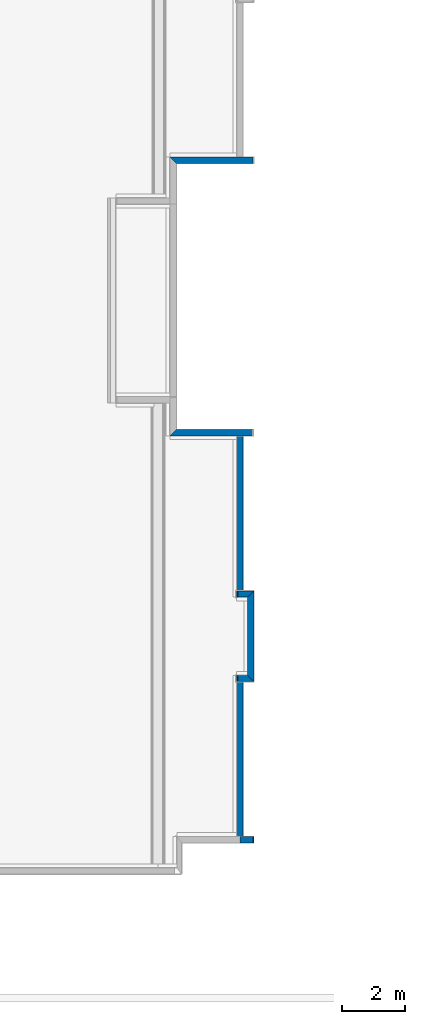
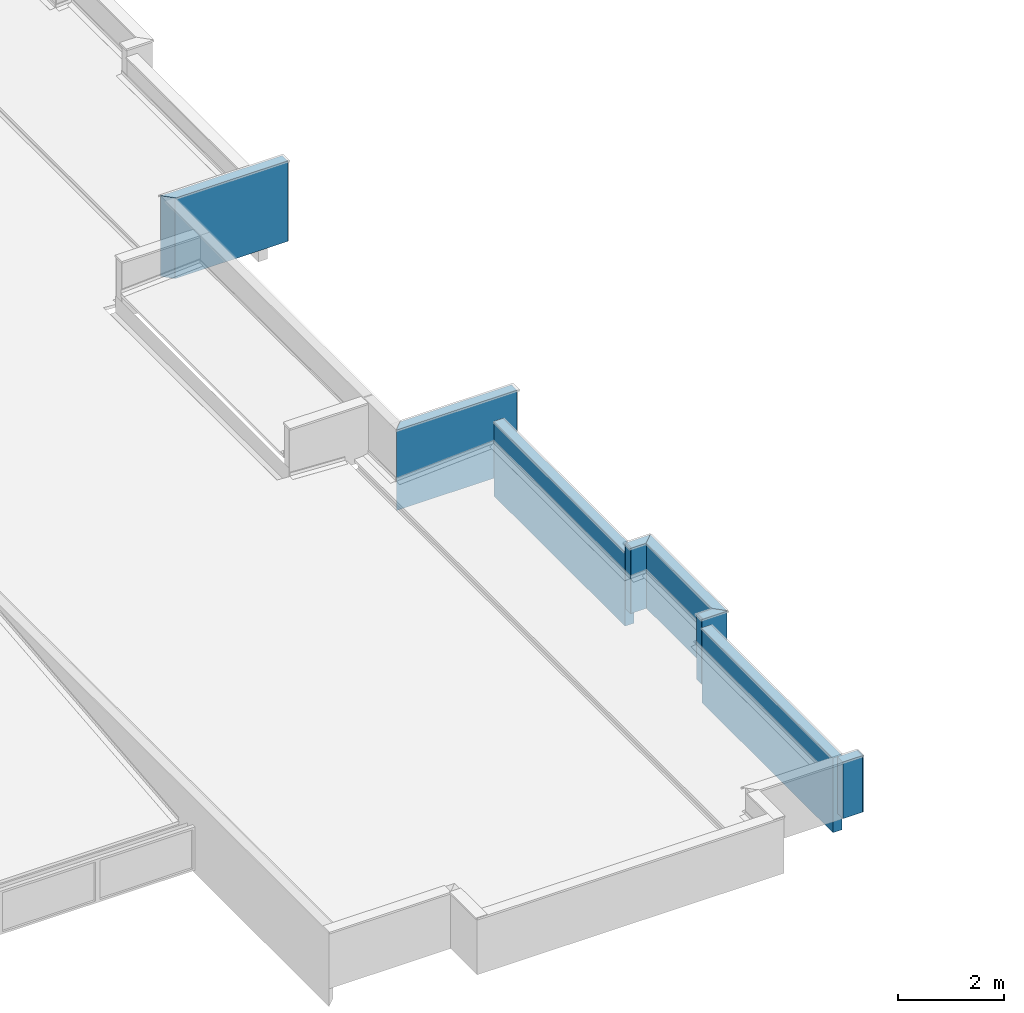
# One storey, part 5 of 25: 11 walls, 5 openings.
"""IFC4 building model written with IfcOpenShell, lengths in metres."""

from ifc_helpers import new_model, entity, si_unit, converted_unit, derived_unit, direction, frame, origin_with_axes, origin_2d_with_axis, place, context, subcontext, project, spatial, line, indexed_curve, rectangle, outline, extrude, polygons, source, transform, mapped, material, layer, layer_set, layer_usage, constituent, constituent_set, type_object, element, fill, save


model = new_model("IFC4")

# Units and contexts
model_context = context("Model", 3, precision=1e-05, world=origin_with_axes(), true_north=direction((0.0, 1.0)))
body_context = subcontext(model_context, "Body", "Model", "MODEL_VIEW")
ifc_project = project(units=[si_unit("LENGTHUNIT", "METRE"), si_unit("AREAUNIT", "SQUARE_METRE"), si_unit("VOLUMEUNIT", "CUBIC_METRE"), converted_unit("PLANEANGLEUNIT", "DEGREE", entity("IfcPlaneAngleMeasure", 0.0174532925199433), si_unit("PLANEANGLEUNIT", "RADIAN"), dimensions=[0, 0, 0, 0, 0, 0, 0]), converted_unit("TIMEUNIT", "Year", entity("IfcTimeMeasure", 31557600.0), si_unit("TIMEUNIT", "SECOND"), dimensions=[0, 0, 1, 0, 0, 0, 0]), si_unit("MASSUNIT", "GRAM", prefix="KILO"), si_unit("THERMODYNAMICTEMPERATUREUNIT", "DEGREE_CELSIUS"), si_unit("LUMINOUSINTENSITYUNIT", "LUMEN"), si_unit("ENERGYUNIT", "JOULE", prefix="MEGA"), derived_unit("THERMALCONDUCTANCEUNIT", [(si_unit("POWERUNIT", "WATT"), 1), (si_unit("LENGTHUNIT", "METRE"), -1), (si_unit("THERMODYNAMICTEMPERATUREUNIT", "KELVIN"), -1)]), derived_unit("SPECIFICHEATCAPACITYUNIT", [(si_unit("ENERGYUNIT", "JOULE"), 1), (si_unit("MASSUNIT", "GRAM", prefix="KILO"), -1), (si_unit("THERMODYNAMICTEMPERATUREUNIT", "KELVIN"), -1)]), derived_unit("MASSDENSITYUNIT", [(si_unit("MASSUNIT", "GRAM", prefix="KILO"), 1), (si_unit("VOLUMEUNIT", "CUBIC_METRE"), -1)])], contexts=[model_context])

# Site, building, storey
site_placement = place(None, origin_with_axes())
site = spatial("IfcSite", under=ifc_project, at=site_placement, Name="PADRÃO", CompositionType="ELEMENT")
building_placement = place(site_placement, origin_with_axes())
building = spatial("IfcBuilding", under=site, at=building_placement, Name="CRECHE PRÉ-ESCOLA TIPO 2", CompositionType="ELEMENT")
storey_placement = place(building_placement, frame((0.0, 0.0, 3.26), z_axis=(0.0, 0.0, 1.0), x_axis=(1.0, 0.0, 0.0)))
storey = spatial("IfcBuildingStorey", under=building, at=storey_placement, Name="COBERTURA", CompositionType="ELEMENT", Elevation=3.26)

# Walls
ifc_material_1 = material(Name="EI-REV-Pintura Acrílica Cor Branco Gelo")
ifc_layer_1 = layer(ifc_material_1, 0.015, ventilated="UNKNOWN", Name="EI-REV-Pintura Acrílica Cor Branco Gelo 1")
ifc_material_2 = material(Name="EI-REV-Massa Acrílica (externa)")
ifc_layer_2 = layer(ifc_material_2, 0.005, ventilated="UNKNOWN", Name="EI-REV-Massa Acrílica (externa) 1")
ifc_material_3 = material(Name="EI-REV-Massa única - Fachada")
ifc_layer_3 = layer(ifc_material_3, 0.005, ventilated="UNKNOWN", Name="EI-REV-Massa única - Fachada 1")
ifc_material_4 = material(Name="EI-REV-Chapisco (externo)")
ifc_layer_4 = layer(ifc_material_4, 0.005, ventilated="UNKNOWN", Name="EI-REV-Chapisco (externo) 1")
ifc_material_5 = material(Name="TIJOLO - CERAMICO 14x19x39 - espessura 20cm")
ifc_layer_5 = layer(ifc_material_5, 0.14, ventilated="UNKNOWN", Name="TIJOLO - CERAMICO 14x19x39 - espessura 20cm")
ifc_layer_6 = layer(ifc_material_4, 0.005, ventilated="UNKNOWN", Name="EI-REV-Chapisco (externo) 2")
ifc_layer_7 = layer(ifc_material_3, 0.005, ventilated="UNKNOWN", Name="EI-REV-Massa única - Fachada 2")
ifc_layer_8 = layer(ifc_material_2, 0.005, ventilated="UNKNOWN", Name="EI-REV-Massa Acrílica (externa) 2")
ifc_layer_9 = layer(ifc_material_1, 0.015, ventilated="UNKNOWN", Name="EI-REV-Pintura Acrílica Cor Branco Gelo 2")
ifc_layer_set_1 = layer_set([ifc_layer_1, ifc_layer_2, ifc_layer_3, ifc_layer_4, ifc_layer_5, ifc_layer_6, ifc_layer_7, ifc_layer_8, ifc_layer_9], Name="FNDE-PLAT_AL14-Pintura Branca")
ifc_layer_usage_1 = layer_usage(ifc_layer_set_1, "AXIS2", "NEGATIVE", 0.1)
wall_type_1 = type_object("IfcWallType", Name="FNDE-PLAT_AL14-Pintura Branca 200", PredefinedType="NOTDEFINED")
wall_1_placement = place(storey_placement, frame((-6.34004243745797, 18.0501547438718, -0.410000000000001), z_axis=(0.0, 0.0, 1.0), x_axis=(0.0, -1.0, 0.0)))
element("IfcWall", 1, at=wall_1_placement, inside=storey, type_object=wall_type_1, material=ifc_layer_usage_1, Name="AL14", PredefinedType="NOTDEFINED", context=body_context, shape_type="SweptSolid", body=[
    extrude(outline(indexed_curve([(0.0, -0.100000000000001), (4.94999872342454, -0.100000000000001), (4.94999872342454, 0.100000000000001), (0.0, 0.100000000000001)], segments=[line(1, 2, 3, 4, 1)])), origin_with_axes(), (0.0, 0.0, 1.0), 1.72),
])
ifc_layer_usage_2 = layer_usage(ifc_layer_set_1, "AXIS2", "NEGATIVE", 0.1)
wall_2_placement = place(storey_placement, frame((-6.34004280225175, 10.2001564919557, -0.410000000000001), z_axis=(0.0, 0.0, 1.0), x_axis=(0.0, -1.0, 0.0)))
element("IfcWall", 2, at=wall_2_placement, inside=storey, type_object=wall_type_1, material=ifc_layer_usage_2, Name="AL14", PredefinedType="NOTDEFINED", context=body_context, shape_type="SweptSolid", body=[
    extrude(outline(indexed_curve([(0.0, -0.100000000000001), (4.9500004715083, -0.100000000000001), (4.9500004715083, 0.100000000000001), (0.0, 0.100000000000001)], segments=[line(1, 2, 3, 4, 1)])), origin_with_axes(), (0.0, 0.0, 1.0), 1.72),
])

# Wall, opening
ifc_material_6 = material(Name="EI-REV-Pintura Acrílica Cor Cinza")
ifc_layer_10 = layer(ifc_material_6, 0.015, ventilated="UNKNOWN", Name="EI-REV-Pintura Acrílica Cor Cinza 1")
ifc_layer_11 = layer(ifc_material_2, 0.005, ventilated="UNKNOWN", Name="EI-REV-Massa Acrílica (externa) 1")
ifc_layer_12 = layer(ifc_material_3, 0.005, ventilated="UNKNOWN", Name="EI-REV-Massa única - Fachada 1")
ifc_layer_13 = layer(ifc_material_4, 0.005, ventilated="UNKNOWN", Name="EI-REV-Chapisco (externo) 1")
ifc_layer_14 = layer(ifc_material_5, 0.14, ventilated="UNKNOWN", Name="TIJOLO - CERAMICO 14x19x39 - espessura 20cm")
ifc_layer_15 = layer(ifc_material_4, 0.005, ventilated="UNKNOWN", Name="EI-REV-Chapisco (externo) 2")
ifc_layer_16 = layer(ifc_material_3, 0.005, ventilated="UNKNOWN", Name="EI-REV-Massa única - Fachada 2")
ifc_layer_17 = layer(ifc_material_2, 0.005, ventilated="UNKNOWN", Name="EI-REV-Massa Acrílica (externa) 2")
ifc_layer_18 = layer(ifc_material_6, 0.015, ventilated="UNKNOWN", Name="EI-REV-Pintura Acrílica Cor Cinza 2")
ifc_layer_set_2 = layer_set([ifc_layer_10, ifc_layer_11, ifc_layer_12, ifc_layer_13, ifc_layer_14, ifc_layer_15, ifc_layer_16, ifc_layer_17, ifc_layer_18], Name="FNDE-PLAT_AL14-Pintura cinza")
ifc_layer_usage_3 = layer_usage(ifc_layer_set_2, "AXIS2", "POSITIVE", -0.1)
wall_type_2 = type_object("IfcWallType", Name="FNDE-PLAT_AL14-Pintura cinza 200", PredefinedType="NOTDEFINED")
wall_3_placement = place(storey_placement, frame((-5.91504280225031, 18.1501547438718, 0.0), z_axis=(0.0, 0.0, 1.0), x_axis=(-1.0, 0.0, 0.0)))
wall_3 = element("IfcWall", 3, at=wall_3_placement, inside=storey, type_object=wall_type_2, material=ifc_layer_usage_3, Name="AL14", PredefinedType="NOTDEFINED", context=body_context, shape_type="SweptSolid", body=[
    extrude(outline(indexed_curve([(0.0, -0.100000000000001), (2.45500895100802, -0.100000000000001), (2.65500895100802, 0.0999999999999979), (0.0, 0.0999999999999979)], segments=[line(1, 2, 3, 4, 1)])), origin_with_axes(), (0.0, 0.0, 1.0), 1.86),
])
opening_1_placement = place(wall_3_placement, origin_with_axes())
element("IfcOpeningElement", 4, at=opening_1_placement, cuts=wall_3, Name="AL14", context=body_context, shape_type="SweptSolid", body=[
    extrude(rectangle(XDim=0.199999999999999, YDim=0.0150000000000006, at=origin_2d_with_axis()), frame((0.00750000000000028, 0.0, 0.0), z_axis=(0.0, 0.0, 1.0), x_axis=(0.0, 1.0, 0.0)), (0.0, 0.0, 1.0), 1.86),
    extrude(rectangle(XDim=0.184999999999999, YDim=0.00500000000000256, at=origin_2d_with_axis()), frame((0.0174999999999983, 0.00749999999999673, 0.0), z_axis=(0.0, 0.0, 1.0), x_axis=(0.0, 1.0, 0.0)), (0.0, 0.0, 1.0), 1.86),
    extrude(rectangle(XDim=0.18, YDim=0.00499999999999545, at=origin_2d_with_axis()), frame((0.0225000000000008, 0.00999999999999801, 0.0), z_axis=(0.0, 0.0, 1.0), x_axis=(0.0, 1.0, 0.0)), (0.0, 0.0, 1.0), 1.86),
])

# Walls, opening
ifc_layer_usage_4 = layer_usage(ifc_layer_set_2, "AXIS2", "POSITIVE", -0.1)
wall_4_placement = place(storey_placement, frame((-6.34004289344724, 5.15015602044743, 0.0), z_axis=(0.0, 0.0, 1.0), x_axis=(1.0, 0.0, 0.0)))
wall_4 = element("IfcWall", 5, at=wall_4_placement, inside=storey, type_object=wall_type_2, material=ifc_layer_usage_4, Name="AL14", PredefinedType="NOTDEFINED", context=body_context, shape_type="SweptSolid", body=[
    extrude(outline(indexed_curve([(0.0, -0.0999999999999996), (0.450000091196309, -0.0999999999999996), (0.450000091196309, 0.100000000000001), (0.0, 0.100000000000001)], segments=[line(1, 2, 3, 4, 1)])), origin_with_axes(), (0.0, 0.0, 1.0), 1.31),
])
opening_2_placement = place(wall_4_placement, frame((0.450000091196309, 0.0, 0.0), z_axis=(0.0, 0.0, 1.0), x_axis=(1.0, 0.0, 0.0)))
opening_2 = element("IfcOpeningElement", 6, at=opening_2_placement, cuts=wall_4, Name="AL14", context=body_context, shape_type="SweptSolid", body=[
    extrude(rectangle(XDim=0.2, YDim=0.0150000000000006, at=origin_2d_with_axis()), frame((-0.00750000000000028, 0.0, 0.0), z_axis=(0.0, 0.0, 1.0), x_axis=(0.0, -1.0, 0.0)), (0.0, 0.0, 1.0), 1.31),
    extrude(rectangle(XDim=0.185, YDim=0.00500000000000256, at=origin_2d_with_axis()), frame((-0.0174999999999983, 0.00750000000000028, 0.0), z_axis=(0.0, 0.0, 1.0), x_axis=(0.0, -1.0, 0.0)), (0.0, 0.0, 1.0), 1.31),
    extrude(rectangle(XDim=0.18, YDim=0.00499999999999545, at=origin_2d_with_axis()), frame((-0.0225000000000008, 0.0100000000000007, 0.0), z_axis=(0.0, 0.0, 1.0), x_axis=(0.0, -1.0, 0.0)), (0.0, 0.0, 1.0), 1.31),
])
ifc_constituent_1 = constituent(ifc_material_6, Name="EI-REV-Pintura Acrílica Cor Cinza")
ifc_constituent_2 = constituent(ifc_material_2, Name="EI-REV-Massa Acrílica (externa)")
ifc_constituent_3 = constituent(ifc_material_3, Name="EI-REV-Massa única - Fachada")
ifc_constituent_set_1 = constituent_set(constituents=[ifc_constituent_1, ifc_constituent_2, ifc_constituent_3])
wall_type_3 = type_object("IfcWallType", Name="Arremate com Dobra Revest 27", PredefinedType="NOTDEFINED")
shared_shape_1 = source(origin_with_axes(), body_context, "Body", "Tessellation", [
    polygons([(0.0, 0.0, 0.0), (0.0, -0.015, 0.0), (0.0, -0.015, 1.31), (0.0, 0.0, 1.31), (0.2, 0.0, 0.0), (0.2, -0.015, 0.0), (0.2, -0.015, 1.31), (0.2, 0.0, 1.31)], [[[1, 2, 3, 4]], [[5, 6, 2, 1]], [[6, 7, 3, 2]], [[7, 8, 4, 3]], [[8, 5, 1, 4]], [[5, 8, 7, 6]]], closed=True),
    polygons([(0.0, -0.015, 0.0), (0.0, -0.02, 0.0), (0.0, -0.02, 1.31), (0.0, -0.015, 1.31), (0.185, -0.015, 0.0), (0.185, -0.02, 0.0), (0.185, -0.02, 1.31), (0.185, -0.015, 1.31)], [[[1, 2, 3, 4]], [[5, 6, 2, 1]], [[6, 7, 3, 2]], [[7, 8, 4, 3]], [[8, 5, 1, 4]], [[5, 8, 7, 6]]], closed=True),
    polygons([(0.0, -0.02, 0.0), (0.0, -0.025, 0.0), (0.0, -0.025, 1.31), (0.0, -0.02, 1.31), (0.18, -0.02, 0.0), (0.18, -0.025, 0.0), (0.18, -0.025, 1.31), (0.18, -0.02, 1.31)], [[[1, 2, 3, 4]], [[5, 6, 2, 1]], [[6, 7, 3, 2]], [[7, 8, 4, 3]], [[8, 5, 1, 4]], [[5, 8, 7, 6]]], closed=True),
])
wall_5_placement = place(opening_2_placement, frame((0.0125000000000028, 0.0, 0.0), z_axis=(0.0, 0.0, 1.0), x_axis=(-1.0, 0.0, 0.0)))
wall_5 = element("IfcWall", 7, at=wall_5_placement, inside=storey, type_object=wall_type_3, material=ifc_constituent_set_1, Name="AL14", PredefinedType="NOTDEFINED", context=body_context, shape_type="MappedRepresentation", body=[
    mapped(shared_shape_1, transform((0.0125000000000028, -0.100000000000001, 0.0), x_axis=(0.0, 1.0, 0.0), y_axis=(-1.0, 0.0, 0.0), z_axis=(0.0, 0.0, 1.0))),
])
fill(opening_2, wall_5)

# Wall, opening
ifc_layer_usage_5 = layer_usage(ifc_layer_set_2, "AXIS2", "POSITIVE", -0.1)
wall_6_placement = place(storey_placement, frame((-5.89001783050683, 26.8501567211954, 0.0), z_axis=(0.0, 0.0, 1.0), x_axis=(-1.0, 0.0, 0.0)))
wall_6 = element("IfcWall", 8, at=wall_6_placement, inside=storey, type_object=wall_type_2, material=ifc_layer_usage_5, Name="AL14", PredefinedType="NOTDEFINED", context=body_context, shape_type="SweptSolid", body=[
    extrude(outline(indexed_curve([(0.0, -0.100000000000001), (2.6800339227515, -0.100000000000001), (2.48003392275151, 0.0999999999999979), (0.0, 0.0999999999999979)], segments=[line(1, 2, 3, 4, 1)])), origin_with_axes(), (0.0, 0.0, 1.0), 1.86),
])
opening_3_placement = place(wall_6_placement, origin_with_axes())
element("IfcOpeningElement", 9, at=opening_3_placement, cuts=wall_6, Name="AL14", context=body_context, shape_type="SweptSolid", body=[
    extrude(rectangle(XDim=0.199999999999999, YDim=0.0150000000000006, at=origin_2d_with_axis()), frame((0.00750000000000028, 0.0, 0.0), z_axis=(0.0, 0.0, 1.0), x_axis=(0.0, 1.0, 0.0)), (0.0, 0.0, 1.0), 1.86),
    extrude(rectangle(XDim=0.184999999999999, YDim=0.00500000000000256, at=origin_2d_with_axis()), frame((0.0175000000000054, -0.00750000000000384, 0.0), z_axis=(0.0, 0.0, 1.0), x_axis=(0.0, 1.0, 0.0)), (0.0, 0.0, 1.0), 1.86),
    extrude(rectangle(XDim=0.18, YDim=0.00499999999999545, at=origin_2d_with_axis()), frame((0.0225000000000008, -0.0100000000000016, 0.0), z_axis=(0.0, 0.0, 1.0), x_axis=(0.0, 1.0, 0.0)), (0.0, 0.0, 1.0), 1.86),
])

# Wall
ifc_material_7 = material(Name="EI-REV-Pintura Acrílica Cor Azul Externa")
ifc_layer_19 = layer(ifc_material_7, 0.015, ventilated="UNKNOWN", Name="EI-REV-Pintura Acrílica Cor Azul Externa")
ifc_layer_20 = layer(ifc_material_2, 0.005, ventilated="UNKNOWN", Name="EI-REV-Massa Acrílica (externa) 1")
ifc_layer_21 = layer(ifc_material_3, 0.005, ventilated="UNKNOWN", Name="EI-REV-Massa única - Fachada 1")
ifc_layer_22 = layer(ifc_material_4, 0.005, ventilated="UNKNOWN", Name="EI-REV-Chapisco (externo) 1")
ifc_layer_23 = layer(ifc_material_5, 0.14, ventilated="UNKNOWN", Name="TIJOLO - CERAMICO 14x19x39 - espessura 20cm")
ifc_layer_24 = layer(ifc_material_4, 0.005, ventilated="UNKNOWN", Name="EI-REV-Chapisco (externo) 2")
ifc_layer_25 = layer(ifc_material_3, 0.005, ventilated="UNKNOWN", Name="EI-REV-Massa única - Fachada 2")
ifc_layer_26 = layer(ifc_material_2, 0.005, ventilated="UNKNOWN", Name="EI-REV-Massa Acrílica (externa) 2")
ifc_layer_27 = layer(ifc_material_1, 0.015, ventilated="UNKNOWN", Name="EI-REV-Pintura Acrílica Cor Branco Gelo")
ifc_layer_set_3 = layer_set([ifc_layer_19, ifc_layer_20, ifc_layer_21, ifc_layer_22, ifc_layer_23, ifc_layer_24, ifc_layer_25, ifc_layer_26, ifc_layer_27], Name="FNDE-PLAT_AL14-Pintura Azul - Branca")
ifc_layer_usage_6 = layer_usage(ifc_layer_set_3, "AXIS2", "NEGATIVE", 0.1)
wall_type_4 = type_object("IfcWallType", Name="FNDE-PLAT_AL14-Pintura Azul - Branca 200", PredefinedType="NOTDEFINED")
wall_7_placement = place(storey_placement, frame((-5.98991134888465, 13.0001556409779, 0.0), z_axis=(0.0, 0.0, 1.0), x_axis=(0.0, -1.0, 0.0)))
element("IfcWall", 10, at=wall_7_placement, inside=storey, type_object=wall_type_4, material=ifc_layer_usage_6, Name="AL14", PredefinedType="NOTDEFINED", context=body_context, shape_type="SweptSolid", body=[
    extrude(outline(indexed_curve([(0.0999998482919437, -0.100000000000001), (2.59997080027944, -0.100000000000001), (2.79997080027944, 0.100000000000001), (-0.0999998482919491, 0.100000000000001)], segments=[line(1, 2, 3, 4, 1)])), origin_with_axes(), (0.0, 0.0, 1.0), 1.51),
])

# Walls, opening
ifc_layer_usage_7 = layer_usage(ifc_layer_set_3, "AXIS2", "NEGATIVE", 0.1)
wall_8_placement = place(storey_placement, frame((-5.98991134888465, 10.3001848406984, 0.0), z_axis=(0.0, 0.0, 1.0), x_axis=(-1.0, 0.0, 0.0)))
wall_8 = element("IfcWall", 11, at=wall_8_placement, inside=storey, type_object=wall_type_4, material=ifc_layer_usage_7, Name="AL14", PredefinedType="NOTDEFINED", context=body_context, shape_type="SweptSolid", body=[
    extrude(outline(indexed_curve([(0.100000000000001, -0.0999999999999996), (0.450000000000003, -0.0999999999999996), (0.450000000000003, 0.0999999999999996), (-0.100000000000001, 0.0999999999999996)], segments=[line(1, 2, 3, 4, 1)])), origin_with_axes(), (0.0, 0.0, 1.0), 1.51),
])
opening_4_placement = place(wall_8_placement, frame((0.450000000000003, 0.0, 0.0), z_axis=(0.0, 0.0, 1.0), x_axis=(1.0, 0.0, 0.0)))
opening_4 = element("IfcOpeningElement", 12, at=opening_4_placement, cuts=wall_8, Name="AL14", ObjectType="Recess", context=body_context, shape_type="SweptSolid", body=[
    extrude(rectangle(XDim=0.184999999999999, YDim=0.0150000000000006, at=origin_2d_with_axis()), frame((-0.00750000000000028, -0.00750000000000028, 0.0), z_axis=(0.0, 0.0, 1.0), x_axis=(0.0, -1.0, 0.0)), (0.0, 0.0, 1.0), 1.51),
    extrude(rectangle(XDim=0.17, YDim=0.00500000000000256, at=origin_2d_with_axis()), frame((-0.0174999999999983, 0.0, 0.0), z_axis=(0.0, 0.0, 1.0), x_axis=(0.0, -1.0, 0.0)), (0.0, 0.0, 1.0), 1.51),
    extrude(rectangle(XDim=0.164999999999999, YDim=0.00499999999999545, at=origin_2d_with_axis()), frame((-0.0225000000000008, 0.0024999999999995, 0.0), z_axis=(0.0, 0.0, 1.0), x_axis=(0.0, -1.0, 0.0)), (0.0, 0.0, 1.0), 1.51),
])
ifc_constituent_4 = constituent(ifc_material_1, Name="EI-REV-Pintura Acrílica Cor Branco Gelo")
ifc_constituent_5 = constituent(ifc_material_2, Name="EI-REV-Massa Acrílica (externa)")
ifc_constituent_6 = constituent(ifc_material_3, Name="EI-REV-Massa única - Fachada")
ifc_constituent_set_2 = constituent_set(constituents=[ifc_constituent_4, ifc_constituent_5, ifc_constituent_6])
shared_shape_2 = source(origin_with_axes(), body_context, "Body", "Tessellation", [
    polygons([(0.015, 0.0, 0.0), (0.015, -0.015, 0.0), (0.015, -0.015, 1.51), (0.015, 0.0, 1.51), (0.2, 0.0, 0.0), (0.2, -0.015, 0.0), (0.2, -0.015, 1.51), (0.2, 0.0, 1.51)], [[[1, 2, 3, 4]], [[5, 6, 2, 1]], [[6, 7, 3, 2]], [[7, 8, 4, 3]], [[8, 5, 1, 4]], [[5, 8, 7, 6]]], closed=True),
    polygons([(0.015, -0.015, 0.0), (0.015, -0.02, 0.0), (0.015, -0.02, 1.51), (0.015, -0.015, 1.51), (0.185, -0.015, 0.0), (0.185, -0.02, 0.0), (0.185, -0.02, 1.51), (0.185, -0.015, 1.51)], [[[1, 2, 3, 4]], [[5, 6, 2, 1]], [[6, 7, 3, 2]], [[7, 8, 4, 3]], [[8, 5, 1, 4]], [[5, 8, 7, 6]]], closed=True),
    polygons([(0.015, -0.02, 0.0), (0.015, -0.025, 0.0), (0.015, -0.025, 1.51), (0.015, -0.02, 1.51), (0.18, -0.02, 0.0), (0.18, -0.025, 0.0), (0.18, -0.025, 1.51), (0.18, -0.02, 1.51)], [[[1, 2, 3, 4]], [[5, 6, 2, 1]], [[6, 7, 3, 2]], [[7, 8, 4, 3]], [[8, 5, 1, 4]], [[5, 8, 7, 6]]], closed=True),
])
wall_9_placement = place(opening_4_placement, frame((-0.0125000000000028, 0.0, 0.0), z_axis=(0.0, 0.0, 1.0), x_axis=(1.0, 0.0, 0.0)))
wall_9 = element("IfcWall", 13, at=wall_9_placement, inside=storey, type_object=wall_type_3, material=ifc_constituent_set_2, Name="AL14", PredefinedType="NOTDEFINED", context=body_context, shape_type="MappedRepresentation", body=[
    mapped(shared_shape_2, transform((0.0125000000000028, 0.0999999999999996, 0.0), x_axis=(0.0, -1.0, 0.0), y_axis=(1.0, 0.0, 0.0), z_axis=(0.0, 0.0, 1.0))),
])
fill(opening_4, wall_9)

ifc_layer_usage_8 = layer_usage(ifc_layer_set_3, "AXIS2", "NEGATIVE", 0.1)
wall_10_placement = place(storey_placement, frame((-6.43991134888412, 13.0001563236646, 0.0), z_axis=(0.0, 0.0, 1.0), x_axis=(0.999999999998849, -1.51708168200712e-06, 0.0)))
wall_10 = element("IfcWall", 14, at=wall_10_placement, inside=storey, type_object=wall_type_4, material=ifc_layer_usage_8, Name="AL14", PredefinedType="NOTDEFINED", context=body_context, shape_type="SweptSolid", body=[
    extrude(outline(indexed_curve([(0.0, -0.100000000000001), (0.350000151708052, -0.0999999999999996), (0.549999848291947, 0.0999999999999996), (0.0, 0.0999999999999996)], segments=[line(1, 2, 3, 4, 1)])), origin_with_axes(), (0.0, 0.0, 1.0), 1.51),
])
opening_5_placement = place(wall_10_placement, origin_with_axes())
opening_5 = element("IfcOpeningElement", 15, at=opening_5_placement, cuts=wall_10, Name="AL14", ObjectType="Recess", context=body_context, shape_type="SweptSolid", body=[
    extrude(rectangle(XDim=0.184999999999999, YDim=0.0150000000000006, at=origin_2d_with_axis()), frame((0.00750000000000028, -0.00749999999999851, 0.0), z_axis=(0.0, 0.0, 1.0), x_axis=(0.0, 1.0, 0.0)), (0.0, 0.0, 1.0), 1.51),
    extrude(rectangle(XDim=0.170000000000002, YDim=0.00500000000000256, at=origin_2d_with_axis()), frame((0.0174999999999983, 0.0, 0.0), z_axis=(0.0, 0.0, 1.0), x_axis=(0.0, 1.0, 0.0)), (0.0, 0.0, 1.0), 1.51),
    extrude(rectangle(XDim=0.165000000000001, YDim=0.00500000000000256, at=origin_2d_with_axis()), frame((0.0225000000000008, 0.00250000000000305, 0.0), z_axis=(0.0, 0.0, 1.0), x_axis=(0.0, 1.0, 0.0)), (0.0, 0.0, 1.0), 1.51),
])
ifc_constituent_7 = constituent(ifc_material_1, Name="EI-REV-Pintura Acrílica Cor Branco Gelo")
ifc_constituent_8 = constituent(ifc_material_2, Name="EI-REV-Massa Acrílica (externa)")
ifc_constituent_9 = constituent(ifc_material_3, Name="EI-REV-Massa única - Fachada")
ifc_constituent_set_3 = constituent_set(constituents=[ifc_constituent_7, ifc_constituent_8, ifc_constituent_9])
shared_shape_3 = source(origin_with_axes(), body_context, "Body", "Tessellation", [
    polygons([(0.0, 0.0, 0.0), (0.0, -0.015, 0.0), (0.0, -0.015, 1.51), (0.0, 0.0, 1.51), (0.185, 0.0, 0.0), (0.185, -0.015, 0.0), (0.185, -0.015, 1.51), (0.185, 0.0, 1.51)], [[[1, 2, 3, 4]], [[5, 6, 2, 1]], [[6, 7, 3, 2]], [[7, 8, 4, 3]], [[8, 5, 1, 4]], [[5, 8, 7, 6]]], closed=True),
    polygons([(0.015, -0.015, 0.0), (0.015, -0.02, 0.0), (0.015, -0.02, 1.51), (0.015, -0.015, 1.51), (0.185, -0.015, 0.0), (0.185, -0.02, 0.0), (0.185, -0.02, 1.51), (0.185, -0.015, 1.51)], [[[1, 2, 3, 4]], [[5, 6, 2, 1]], [[6, 7, 3, 2]], [[7, 8, 4, 3]], [[8, 5, 1, 4]], [[5, 8, 7, 6]]], closed=True),
    polygons([(0.02, -0.02, 0.0), (0.02, -0.025, 0.0), (0.02, -0.025, 1.51), (0.02, -0.02, 1.51), (0.185, -0.02, 0.0), (0.185, -0.025, 0.0), (0.185, -0.025, 1.51), (0.185, -0.02, 1.51)], [[[1, 2, 3, 4]], [[5, 6, 2, 1]], [[6, 7, 3, 2]], [[7, 8, 4, 3]], [[8, 5, 1, 4]], [[5, 8, 7, 6]]], closed=True),
])
wall_11_placement = place(opening_5_placement, frame((0.0125000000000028, 0.0, 0.0), z_axis=(0.0, 0.0, 1.0), x_axis=(-1.0, 0.0, 0.0)))
wall_11 = element("IfcWall", 16, at=wall_11_placement, inside=storey, type_object=wall_type_3, material=ifc_constituent_set_3, Name="AL14", PredefinedType="NOTDEFINED", context=body_context, shape_type="MappedRepresentation", body=[
    mapped(shared_shape_3, transform((0.0125000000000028, 0.0999999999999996, 0.0), x_axis=(0.0, -1.0, 0.0), y_axis=(1.0, 0.0, 0.0), z_axis=(0.0, 0.0, 1.0))),
])
fill(opening_5, wall_11)

save(model, "model.ifc")
